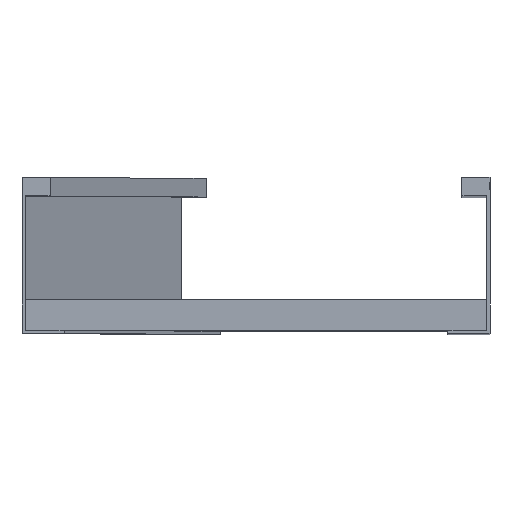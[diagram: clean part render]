
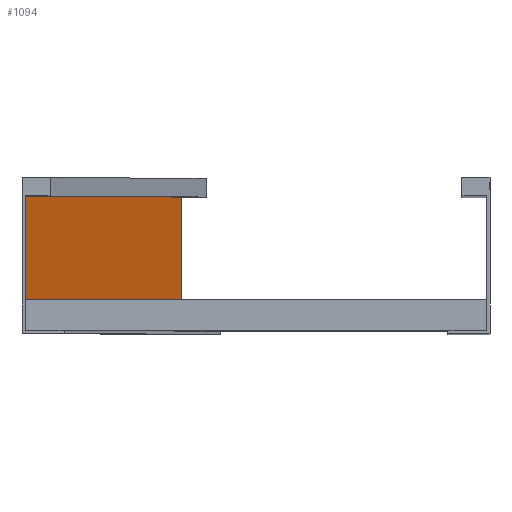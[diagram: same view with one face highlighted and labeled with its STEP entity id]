
A CAD part, top view. The second image highlights one B-rep face of the part: STEP entity #1094.
In plain terms, the highlighted planar face has unit normal (0.923, 0, 0.385).
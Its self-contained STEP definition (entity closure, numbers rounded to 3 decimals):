
#122 = LINE ( 'NONE', #1240, #3193 ) ;
#133 = EDGE_CURVE ( 'NONE', #176, #1541, #439, .T. ) ;
#137 = PLANE ( 'NONE',  #192 ) ;
#144 = DIRECTION ( 'NONE',  ( 0.385, 0., -0.923 ) ) ;
#176 = VERTEX_POINT ( 'NONE', #2632 ) ;
#192 = AXIS2_PLACEMENT_3D ( 'NONE', #407, #3424, #904 ) ;
#407 = CARTESIAN_POINT ( 'NONE',  ( 1.846, 88., -179.231 ) ) ;
#415 = ORIENTED_EDGE ( 'NONE', *, *, #1749, .F. ) ;
#439 = LINE ( 'NONE', #2899, #808 ) ;
#549 = CARTESIAN_POINT ( 'NONE',  ( 102., 88., -419.6 ) ) ;
#742 = ORIENTED_EDGE ( 'NONE', *, *, #1519, .F. ) ;
#759 = VERTEX_POINT ( 'NONE', #1424 ) ;
#808 = VECTOR ( 'NONE', #2973, 1000. ) ;
#904 = DIRECTION ( 'NONE',  ( -0.385, 0., 0.923 ) ) ;
#1094 = ADVANCED_FACE ( 'NONE', ( #3183 ), #137, .F. ) ;
#1172 = ORIENTED_EDGE ( 'NONE', *, *, #133, .T. ) ;
#1240 = CARTESIAN_POINT ( 'NONE',  ( 1.846, 2., -179.231 ) ) ;
#1358 = VERTEX_POINT ( 'NONE', #549 ) ;
#1424 = CARTESIAN_POINT ( 'NONE',  ( 102., 2., -419.6 ) ) ;
#1503 = CARTESIAN_POINT ( 'NONE',  ( 102., 88., -419.6 ) ) ;
#1514 = CARTESIAN_POINT ( 'NONE',  ( 1.846, 88., -179.231 ) ) ;
#1519 = EDGE_CURVE ( 'NONE', #176, #1358, #2613, .T. ) ;
#1541 = VERTEX_POINT ( 'NONE', #2874 ) ;
#1749 = EDGE_CURVE ( 'NONE', #1358, #759, #3474, .T. ) ;
#2275 = EDGE_CURVE ( 'NONE', #1541, #759, #122, .T. ) ;
#2286 = DIRECTION ( 'NONE',  ( 0., -1., 0. ) ) ;
#2436 = ORIENTED_EDGE ( 'NONE', *, *, #2275, .T. ) ;
#2613 = LINE ( 'NONE', #1514, #2880 ) ;
#2632 = CARTESIAN_POINT ( 'NONE',  ( 2., 88., -179.6 ) ) ;
#2874 = CARTESIAN_POINT ( 'NONE',  ( 2., 2., -179.6 ) ) ;
#2880 = VECTOR ( 'NONE', #3418, 1000. ) ;
#2899 = CARTESIAN_POINT ( 'NONE',  ( 2., 88., -179.6 ) ) ;
#2973 = DIRECTION ( 'NONE',  ( 0., -1., 0. ) ) ;
#3183 = FACE_OUTER_BOUND ( 'NONE', #3185, .T. ) ;
#3185 = EDGE_LOOP ( 'NONE', ( #742, #1172, #2436, #415 ) ) ;
#3193 = VECTOR ( 'NONE', #144, 1000. ) ;
#3418 = DIRECTION ( 'NONE',  ( 0.385, 0., -0.923 ) ) ;
#3424 = DIRECTION ( 'NONE',  ( -0.923, 0., -0.385 ) ) ;
#3472 = VECTOR ( 'NONE', #2286, 1000. ) ;
#3474 = LINE ( 'NONE', #1503, #3472 ) ;
